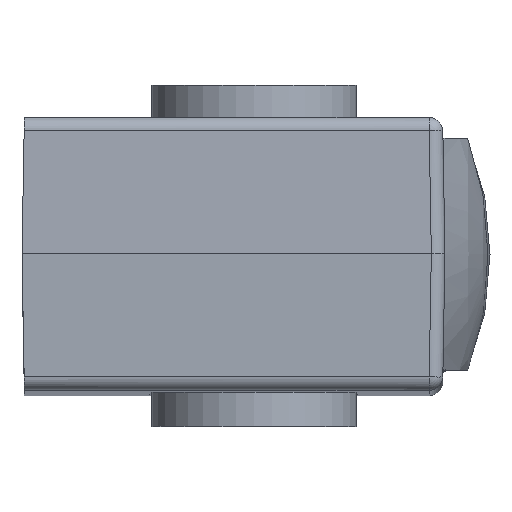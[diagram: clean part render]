
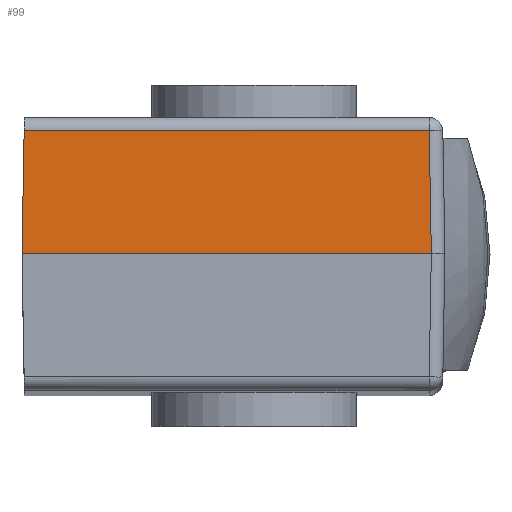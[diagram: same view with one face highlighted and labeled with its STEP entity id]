
A CAD part, top view. The second image highlights one B-rep face of the part: STEP entity #99.
In plain terms, the highlighted planar face has unit normal (0, 0.018, 1).
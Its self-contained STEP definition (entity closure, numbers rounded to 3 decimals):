
#99 = ADVANCED_FACE( '', ( #222 ), #223, .T. );
#222 = FACE_OUTER_BOUND( '', #364, .T. );
#223 = PLANE( '', #365 );
#364 = EDGE_LOOP( '', ( #572, #573, #574, #575 ) );
#365 = AXIS2_PLACEMENT_3D( '', #576, #577, #578 );
#572 = ORIENTED_EDGE( '', *, *, #834, .T. );
#573 = ORIENTED_EDGE( '', *, *, #835, .T. );
#574 = ORIENTED_EDGE( '', *, *, #806, .T. );
#575 = ORIENTED_EDGE( '', *, *, #836, .F. );
#576 = CARTESIAN_POINT( '', ( 0., 0., 33. ) );
#577 = DIRECTION( '', ( 0., 0.017, 1. ) );
#578 = DIRECTION( '', ( 0., -1., 0.017 ) );
#806 = EDGE_CURVE( '', #954, #952, #955, .T. );
#834 = EDGE_CURVE( '', #997, #998, #999, .F. );
#835 = EDGE_CURVE( '', #998, #954, #1000, .T. );
#836 = EDGE_CURVE( '', #997, #952, #1001, .F. );
#952 = VERTEX_POINT( '', #1136 );
#954 = VERTEX_POINT( '', #1139 );
#955 = LINE( '', #1140, #1141 );
#997 = VERTEX_POINT( '', #1193 );
#998 = VERTEX_POINT( '', #1194 );
#999 = LINE( '', #1195, #1196 );
#1000 = LINE( '', #1197, #1198 );
#1001 = LINE( '', #1199, #1200 );
#1136 = CARTESIAN_POINT( '', ( -3.4, 0., 33. ) );
#1139 = CARTESIAN_POINT( '', ( -3.369, 1.803, 32.969 ) );
#1140 = CARTESIAN_POINT( '', ( -3.399, 0.059, 32.999 ) );
#1141 = VECTOR( '', #1331, 1000. );
#1193 = CARTESIAN_POINT( '', ( 2.6, 0., 33. ) );
#1194 = CARTESIAN_POINT( '', ( 2.569, 1.803, 32.969 ) );
#1195 = CARTESIAN_POINT( '', ( 2.599, 0.045, 32.999 ) );
#1196 = VECTOR( '', #1372, 1000. );
#1197 = CARTESIAN_POINT( '', ( -3.365, 1.803, 32.969 ) );
#1198 = VECTOR( '', #1373, 1000. );
#1199 = CARTESIAN_POINT( '', ( 0., 0., 33. ) );
#1200 = VECTOR( '', #1374, 1000. );
#1331 = DIRECTION( '', ( -0.017, -1., 0.017 ) );
#1372 = DIRECTION( '', ( 0.017, -1., 0.017 ) );
#1373 = DIRECTION( '', ( -1., 0., 0. ) );
#1374 = DIRECTION( '', ( 1., 0., 0. ) );
